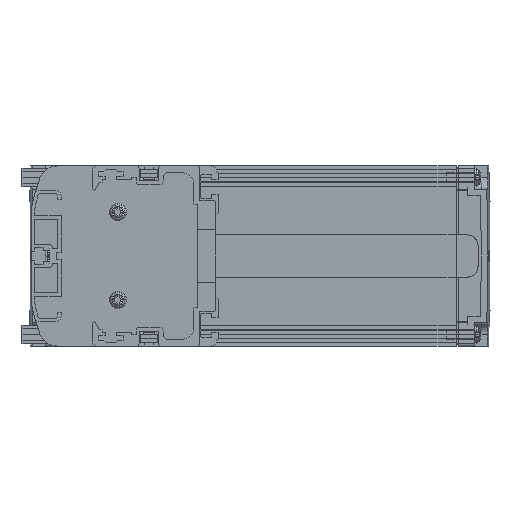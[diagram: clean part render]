
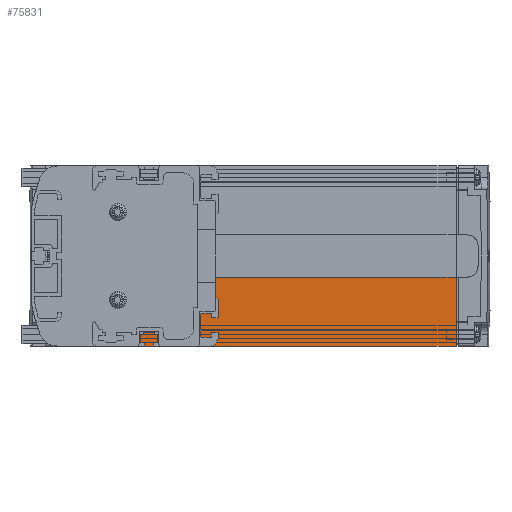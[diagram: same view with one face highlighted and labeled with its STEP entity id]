
A CAD part, left-side view. The second image highlights one B-rep face of the part: STEP entity #75831.
In plain terms, the highlighted planar face has unit normal (-1, 0, 0).
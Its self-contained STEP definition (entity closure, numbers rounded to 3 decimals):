
#73772=DIRECTION('',(0.,1.,0.));
#73773=VECTOR('',#73772,51.);
#73774=CARTESIAN_POINT('',(3.,16.,-27.));
#73775=LINE('',#73774,#73773);
#74421=DIRECTION('',(0.,1.,0.));
#74422=VECTOR('',#74421,170.);
#74423=CARTESIAN_POINT('',(3.,-103.,-39.));
#74424=LINE('',#74423,#74422);
#74439=DIRECTION('',(0.,0.,1.));
#74440=VECTOR('',#74439,29.9);
#74441=CARTESIAN_POINT('',(3.,-103.,-39.));
#74442=LINE('',#74441,#74440);
#74443=DIRECTION('',(0.,0.,-1.));
#74444=VECTOR('',#74443,12.);
#74445=CARTESIAN_POINT('',(3.,67.,-27.));
#74446=LINE('',#74445,#74444);
#74447=DIRECTION('',(0.,0.,-1.));
#74448=VECTOR('',#74447,17.9);
#74449=CARTESIAN_POINT('',(3.,16.,-9.1));
#74450=LINE('',#74449,#74448);
#74557=DIRECTION('',(0.,1.,0.));
#74558=VECTOR('',#74557,119.);
#74559=CARTESIAN_POINT('',(3.,-103.,-9.1));
#74560=LINE('',#74559,#74558);
#74644=CARTESIAN_POINT('',(3.,67.,-27.));
#74646=VERTEX_POINT('',#74644);
#74738=CARTESIAN_POINT('',(3.,67.,-39.));
#74739=VERTEX_POINT('',#74738);
#74812=CARTESIAN_POINT('',(3.,-103.,-39.));
#74813=VERTEX_POINT('',#74812);
#74814=CARTESIAN_POINT('',(3.,-103.,-9.1));
#74815=VERTEX_POINT('',#74814);
#74876=CARTESIAN_POINT('',(3.,16.,-27.));
#74877=VERTEX_POINT('',#74876);
#74878=CARTESIAN_POINT('',(3.,16.,-9.1));
#74879=VERTEX_POINT('',#74878);
#75816=CARTESIAN_POINT('',(3.,-18.,-24.05));
#75817=DIRECTION('',(1.,0.,0.));
#75818=DIRECTION('',(0.,0.,-1.));
#75819=AXIS2_PLACEMENT_3D('',#75816,#75817,#75818);
#75820=PLANE('',#75819);
#75821=ORIENTED_EDGE('',*,*,#75062,.F.);
#75823=ORIENTED_EDGE('',*,*,#75822,.F.);
#75825=ORIENTED_EDGE('',*,*,#75824,.F.);
#75826=ORIENTED_EDGE('',*,*,#75390,.F.);
#75827=ORIENTED_EDGE('',*,*,#75804,.T.);
#75828=ORIENTED_EDGE('',*,*,#74931,.F.);
#75829=EDGE_LOOP('',(#75821,#75823,#75825,#75826,#75827,#75828));
#75830=FACE_OUTER_BOUND('',#75829,.F.);
#75831=ADVANCED_FACE('',(#75830),#75820,.F.);
#74931=EDGE_CURVE('',#74646,#74739,#74446,.T.);
#75062=EDGE_CURVE('',#74877,#74646,#73775,.T.);
#75390=EDGE_CURVE('',#74813,#74815,#74442,.T.);
#75804=EDGE_CURVE('',#74813,#74739,#74424,.T.);
#75822=EDGE_CURVE('',#74879,#74877,#74450,.T.);
#75824=EDGE_CURVE('',#74815,#74879,#74560,.T.);
